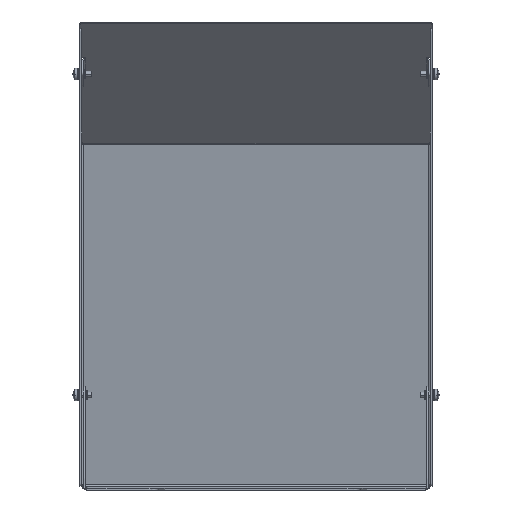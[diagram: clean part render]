
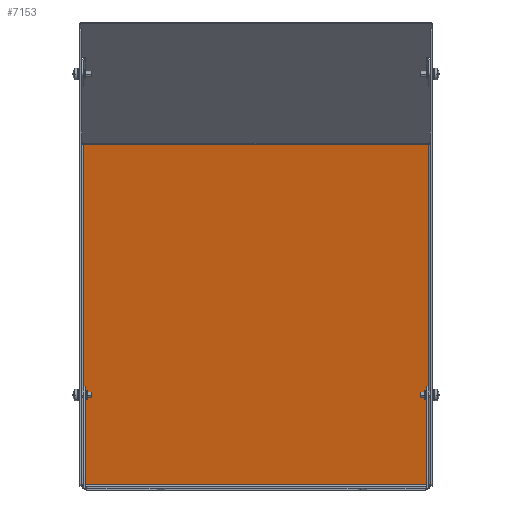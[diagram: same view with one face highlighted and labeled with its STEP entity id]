
A CAD part, front view. The second image highlights one B-rep face of the part: STEP entity #7153.
In plain terms, the highlighted planar face has unit normal (0, -0.985, -0.174).
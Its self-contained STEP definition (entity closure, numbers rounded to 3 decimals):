
#934=DIRECTION('',(-1.,0.,0.));
#935=VECTOR('',#934,300.);
#936=CARTESIAN_POINT('',(150.,-2.098,3.26));
#937=LINE('',#936,#935);
#938=DIRECTION('',(-1.,0.,0.));
#939=VECTOR('',#938,300.);
#940=CARTESIAN_POINT('',(150.,-54.211,298.808));
#941=LINE('',#940,#939);
#2449=CARTESIAN_POINT('',(-150.,-54.211,298.808));
#2451=DIRECTION('',(0.,0.174,-0.985));
#2452=VECTOR('',#2451,300.107);
#2453=CARTESIAN_POINT('',(-150.,-54.211,298.808));
#2454=LINE('',#2453,#2452);
#4532=DIRECTION('',(0.,0.174,-0.985));
#4533=VECTOR('',#4532,300.107);
#4534=CARTESIAN_POINT('',(150.,-54.211,298.808));
#4535=LINE('',#4534,#4533);
#4591=CARTESIAN_POINT('',(-150.,-2.098,3.26));
#4592=VERTEX_POINT('',#4591);
#4593=VERTEX_POINT('',#2449);
#4619=CARTESIAN_POINT('',(150.,-2.098,3.26));
#4621=VERTEX_POINT('',#4619);
#4623=CARTESIAN_POINT('',(150.,-54.211,298.808));
#4625=VERTEX_POINT('',#4623);
#7139=CARTESIAN_POINT('',(-150.5,-1.477,-0.26));
#7140=DIRECTION('',(0.,0.985,0.174));
#7141=DIRECTION('',(0.,-0.174,0.985));
#7142=AXIS2_PLACEMENT_3D('',#7139,#7140,#7141);
#7143=PLANE('',#7142);
#7145=ORIENTED_EDGE('',*,*,#7144,.T.);
#7147=ORIENTED_EDGE('',*,*,#7146,.F.);
#7148=ORIENTED_EDGE('',*,*,#7129,.F.);
#7150=ORIENTED_EDGE('',*,*,#7149,.T.);
#7151=EDGE_LOOP('',(#7145,#7147,#7148,#7150));
#7152=FACE_OUTER_BOUND('',#7151,.F.);
#7153=ADVANCED_FACE('',(#7152),#7143,.F.);
#7129=EDGE_CURVE('',#4625,#4593,#941,.T.);
#7144=EDGE_CURVE('',#4621,#4592,#937,.T.);
#7146=EDGE_CURVE('',#4593,#4592,#2454,.T.);
#7149=EDGE_CURVE('',#4625,#4621,#4535,.T.);
